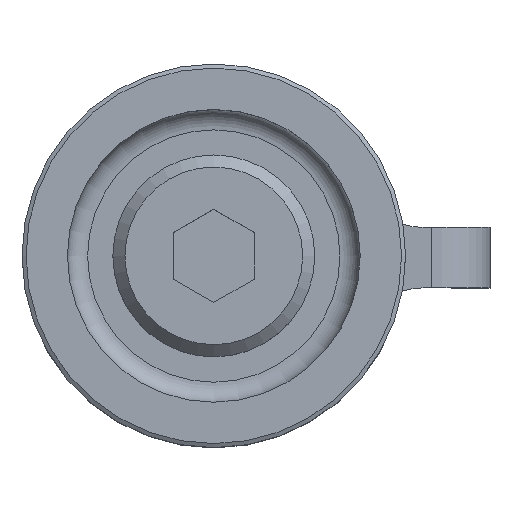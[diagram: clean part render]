
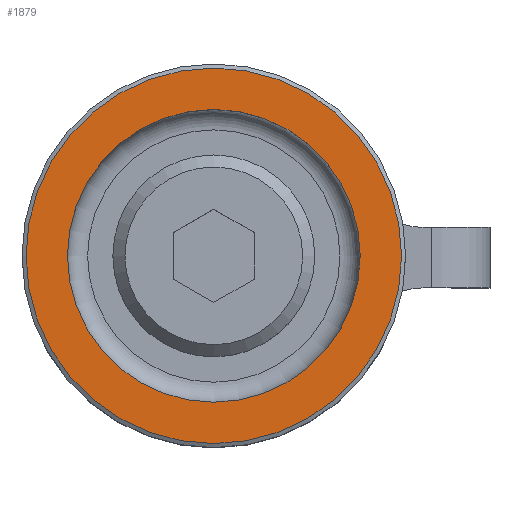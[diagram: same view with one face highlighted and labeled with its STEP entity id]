
A CAD part, top view. The second image highlights one B-rep face of the part: STEP entity #1879.
In plain terms, the highlighted planar face has unit normal (0, 0, 1) as drawn and (1, 0, 0) by its records, which use the part's own axes.
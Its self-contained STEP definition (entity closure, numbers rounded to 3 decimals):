
#396=FACE_BOUND('',#2254,.T.);
#397=FACE_BOUND('',#2255,.T.);
#1879=ADVANCED_FACE('A_MATE1',(#396,#397),#1963,.F.);
#1963=PLANE('',#3844);
#2254=EDGE_LOOP('',(#2888));
#2255=EDGE_LOOP('',(#2889));
#2427=CIRCLE('',#3842,9.3);
#2428=CIRCLE('',#3843,7.25);
#2888=ORIENTED_EDGE('',*,*,#3389,.T.);
#2889=ORIENTED_EDGE('',*,*,#3390,.F.);
#3133=VERTEX_POINT('',#5455);
#3134=VERTEX_POINT('',#5457);
#3389=EDGE_CURVE('',#3133,#3133,#2427,.T.);
#3390=EDGE_CURVE('',#3134,#3134,#2428,.T.);
#3842=AXIS2_PLACEMENT_3D('',#5454,#4465,#4466);
#3843=AXIS2_PLACEMENT_3D('',#5456,#4467,#4468);
#3844=AXIS2_PLACEMENT_3D('',#5458,#4469,#4470);
#4465=DIRECTION('',(1.,0.,0.));
#4466=DIRECTION('',(0.,0.,1.));
#4467=DIRECTION('',(1.,0.,0.));
#4468=DIRECTION('',(0.,0.,1.));
#4469=DIRECTION('',(-1.,0.,0.));
#4470=DIRECTION('',(0.,0.,1.));
#5454=CARTESIAN_POINT('',(10.,0.,0.));
#5455=CARTESIAN_POINT('',(10.,0.,9.3));
#5456=CARTESIAN_POINT('',(10.,0.,0.));
#5457=CARTESIAN_POINT('',(10.,0.,7.25));
#5458=CARTESIAN_POINT('',(10.,9.5,0.));
